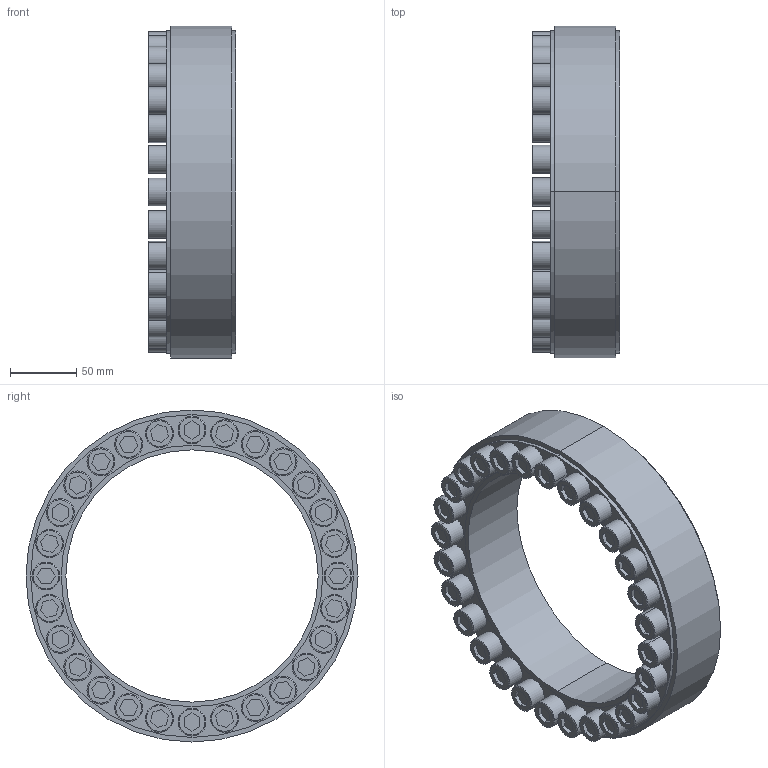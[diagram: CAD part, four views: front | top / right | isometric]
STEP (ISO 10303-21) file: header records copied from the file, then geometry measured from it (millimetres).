
FILE_DESCRIPTION (( 'STEP AP203' ), '1' );
FILE_NAME ('SA-190.step', '2009-09-29T15:24:41', ( 'USER' ), ( 'HOME' ), 'SwSTEP 2.0', 'SolidWorks 2007', '' );
FILE_SCHEMA (( 'CONFIG_CONTROL_DESIGN' ));
Length unit declared in the file: millimetre
Products named in the file (1): SA-190
Bounding box: 66 x 250 x 250 mm (x, y, z)
Volume: 1180331.1 mm3; surface area: 395964.1 mm2
Topology: 31 solids, 31 shells, 530 faces, 1172 edges, 760 vertices
Faces by surface type: plane 286, cylinder 172, cone 72
Entity records: 14769 total; most frequent: DIRECTION 2658, CARTESIAN_POINT 2463, ORIENTED_EDGE 2344, EDGE_CURVE 1172, AXIS2_PLACEMENT_3D 955, VERTEX_POINT 760, VECTOR 748, LINE 748
